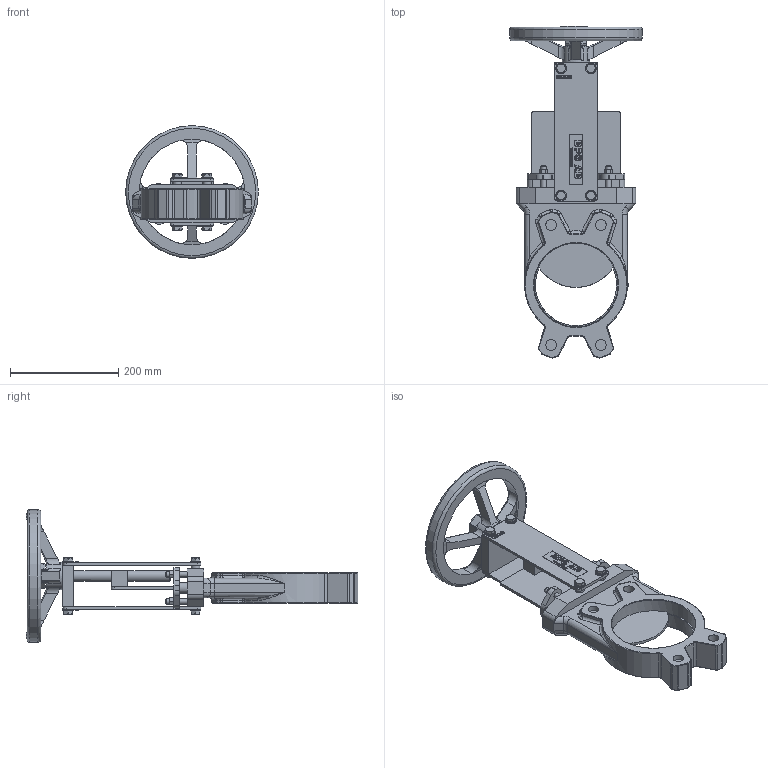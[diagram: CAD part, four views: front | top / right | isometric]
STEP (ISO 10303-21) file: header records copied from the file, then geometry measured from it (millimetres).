
FILE_DESCRIPTION((''),'2;1');
FILE_NAME('Z:\Kunder\BPS\BPS Produkter\BPS 2015\DN 150\Ritningar\BPS 2015150.stp','2012-12-28T10:56:43',('James'),(''),'Autodesk Inventor 2013','Autodesk Inventor 2013','');
FILE_SCHEMA(('AUTOMOTIVE_DESIGN { 1 2 10303 214 0 1 1 1 }'));
Length unit declared in the file: millimetre
Products named in the file (2): BPS 2015150 (SubstituteLevelofDetail1); BPS 2015150
Assembly tree (1 placements, depth 2):
  BPS 2015150 (SubstituteLevelofDetail1)
    BPS 2015150
Bounding box: 245 x 612.77 x 245 mm (x, y, z)
Volume: 3084376.9 mm3; surface area: 467080.8 mm2
Topology: 2 solids, 16 shells, 1255 faces, 3049 edges, 1918 vertices
Faces by surface type: plane 601, cylinder 252, bspline 238, torus 87, cone 57, sphere 20
Full cylindrical faces by diameter (mm): 8 x2, 10 x20, 10.5 x8, 14.63 x8, 16 x2, 20 x19, 50 x1, 150 x1, 155 x1, 195 x1, 245 x1
Entity records: 44522 total; most frequent: CARTESIAN_POINT 15490, ORIENTED_EDGE 5894, DIRECTION 5193, EDGE_CURVE 2947, VERTEX_POINT 1904, AXIS2_PLACEMENT_3D 1772, VECTOR 1649, LINE 1649
